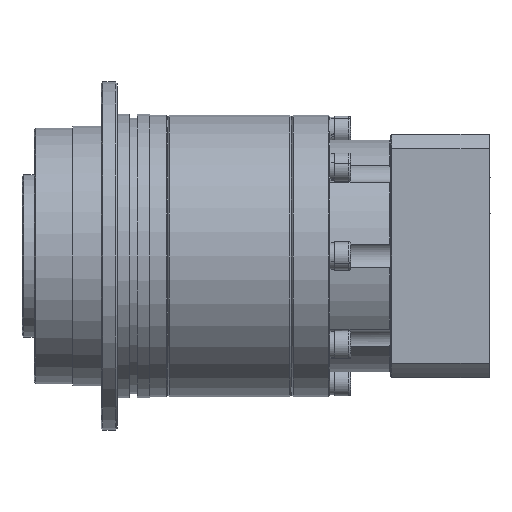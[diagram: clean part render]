
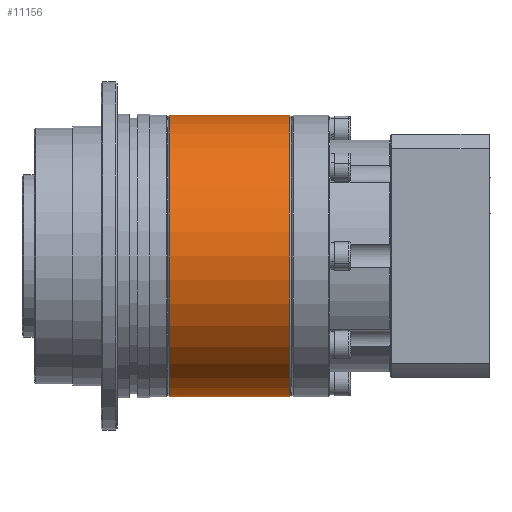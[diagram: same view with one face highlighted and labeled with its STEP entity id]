
A CAD part, front view. The second image highlights one B-rep face of the part: STEP entity #11156.
In plain terms, the highlighted cylindrical face has radius 34.75 mm (diameter 69.5 mm), a partial arc.
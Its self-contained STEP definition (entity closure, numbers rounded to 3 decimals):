
#181 = VERTEX_POINT ( 'NONE', #664 ) ;
#228 = DIRECTION ( 'NONE',  ( 0., 0., 1. ) ) ;
#359 = CARTESIAN_POINT ( 'NONE',  ( 30.1, 0., 34.75 ) ) ;
#438 = DIRECTION ( 'NONE',  ( 1., 0., 0. ) ) ;
#594 = VERTEX_POINT ( 'NONE', #16637 ) ;
#664 = CARTESIAN_POINT ( 'NONE',  ( 30.1, 0., -34.75 ) ) ;
#700 = EDGE_CURVE ( 'NONE', #17222, #4619, #2315, .T. ) ;
#2206 = DIRECTION ( 'NONE',  ( 0., 0., 1. ) ) ;
#2315 = LINE ( 'NONE', #6416, #17839 ) ;
#2491 = CARTESIAN_POINT ( 'NONE',  ( 0.4, 0., 34.75 ) ) ;
#2907 = AXIS2_PLACEMENT_3D ( 'NONE', #18154, #16525, #228 ) ;
#3346 = EDGE_CURVE ( 'NONE', #181, #17222, #5954, .T. ) ;
#3641 = VERTEX_POINT ( 'NONE', #10492 ) ;
#4144 = EDGE_LOOP ( 'NONE', ( #15612, #10145, #6386, #14318, #12509 ) ) ;
#4619 = VERTEX_POINT ( 'NONE', #2491 ) ;
#4683 = DIRECTION ( 'NONE',  ( 0., 0., 1. ) ) ;
#5954 = CIRCLE ( 'NONE', #16889, 34.75 ) ;
#6027 = CARTESIAN_POINT ( 'NONE',  ( 30.1, 0., 0. ) ) ;
#6386 = ORIENTED_EDGE ( 'NONE', *, *, #700, .T. ) ;
#6416 = CARTESIAN_POINT ( 'NONE',  ( 0., 0., 34.75 ) ) ;
#7794 = CARTESIAN_POINT ( 'NONE',  ( 0., 0., -34.75 ) ) ;
#7888 = CYLINDRICAL_SURFACE ( 'NONE', #13426, 34.75 ) ;
#7986 = DIRECTION ( 'NONE',  ( -1., 0., 0. ) ) ;
#9504 = DIRECTION ( 'NONE',  ( -1., 0., 0. ) ) ;
#9629 = VECTOR ( 'NONE', #16639, 1000. ) ;
#10117 = CIRCLE ( 'NONE', #2907, 34.75 ) ;
#10145 = ORIENTED_EDGE ( 'NONE', *, *, #3346, .T. ) ;
#10492 = CARTESIAN_POINT ( 'NONE',  ( 0.4, 0., -34.75 ) ) ;
#10958 = CIRCLE ( 'NONE', #13050, 34.75 ) ;
#10990 = EDGE_CURVE ( 'NONE', #4619, #594, #10958, .T. ) ;
#11156 = ADVANCED_FACE ( 'NONE', ( #17539 ), #7888, .T. ) ;
#11860 = DIRECTION ( 'NONE',  ( 0., 0., 1. ) ) ;
#12509 = ORIENTED_EDGE ( 'NONE', *, *, #17036, .T. ) ;
#12623 = CARTESIAN_POINT ( 'NONE',  ( 0., 0., 0. ) ) ;
#13050 = AXIS2_PLACEMENT_3D ( 'NONE', #13752, #438, #4683 ) ;
#13426 = AXIS2_PLACEMENT_3D ( 'NONE', #12623, #9504, #2206 ) ;
#13752 = CARTESIAN_POINT ( 'NONE',  ( 0.4, 0., 0. ) ) ;
#14318 = ORIENTED_EDGE ( 'NONE', *, *, #10990, .T. ) ;
#15612 = ORIENTED_EDGE ( 'NONE', *, *, #17647, .F. ) ;
#16216 = LINE ( 'NONE', #7794, #9629 ) ;
#16525 = DIRECTION ( 'NONE',  ( 1., 0., 0. ) ) ;
#16581 = DIRECTION ( 'NONE',  ( -1., 0., 0. ) ) ;
#16637 = CARTESIAN_POINT ( 'NONE',  ( 0.4, -34.75, 0. ) ) ;
#16639 = DIRECTION ( 'NONE',  ( -1., 0., 0. ) ) ;
#16889 = AXIS2_PLACEMENT_3D ( 'NONE', #6027, #16581, #11860 ) ;
#17036 = EDGE_CURVE ( 'NONE', #594, #3641, #10117, .T. ) ;
#17222 = VERTEX_POINT ( 'NONE', #359 ) ;
#17539 = FACE_OUTER_BOUND ( 'NONE', #4144, .T. ) ;
#17647 = EDGE_CURVE ( 'NONE', #181, #3641, #16216, .T. ) ;
#17839 = VECTOR ( 'NONE', #7986, 1000. ) ;
#18154 = CARTESIAN_POINT ( 'NONE',  ( 0.4, 0., 0. ) ) ;
